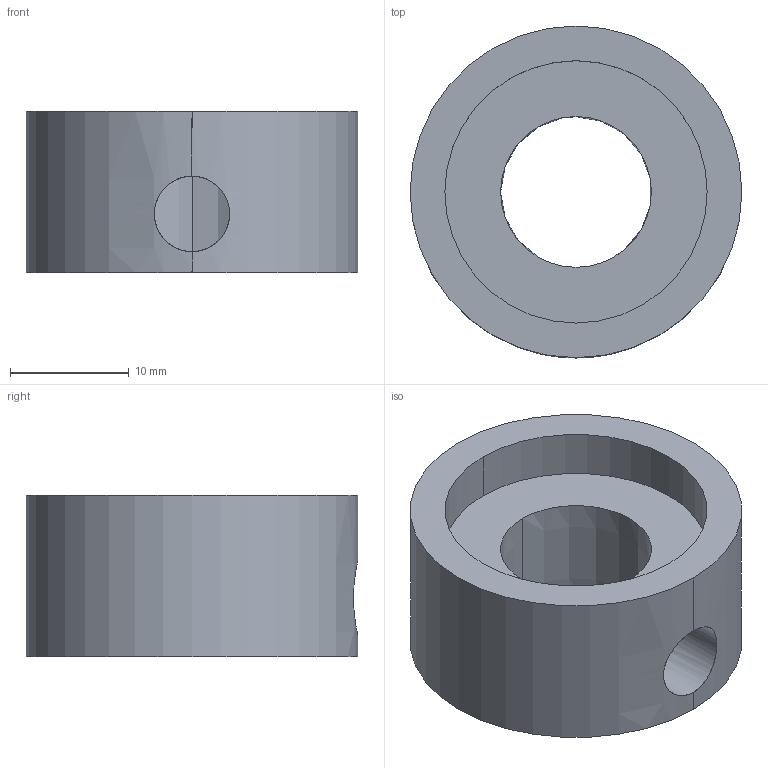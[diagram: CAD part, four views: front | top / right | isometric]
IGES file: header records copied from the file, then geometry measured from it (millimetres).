
Global section: file name: C:\Documents and Settings\Administrator\Desktop\Transfer Temp\bearinglockingcollar.igs; native system: AutoDesk Inventor R2.0 ; preprocessor: AutoDesk Inventor Iges Exporter R2.0; author: No Author specified; organization: No Organization specified; date: 20011230.143552; units: inch
Bounding box: 27.94 x 27.94 x 13.56 mm (x, y, z)
Surface area: 2915.2 mm2 (no closed solid volume)
Topology: 0 solids, 0 shells, 11 faces, 60 edges, 60 vertices
Faces by surface type: revolution 8, bspline 3
